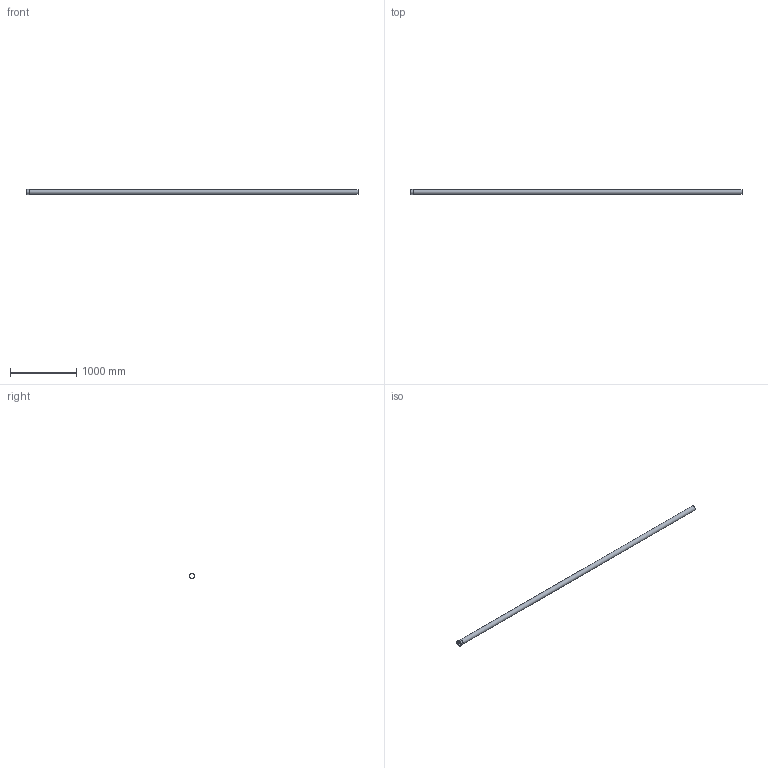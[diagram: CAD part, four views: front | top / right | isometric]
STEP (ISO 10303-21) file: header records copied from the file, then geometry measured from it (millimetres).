
FILE_DESCRIPTION((''),'2;1');
FILE_NAME('I:\WATTS\3D_CAD\3D_CAD_Models\Blucher_Drains\P_StraightPipe\WebsiteFiles\3D\STEP\P3-16.4-316.stp','2009-12-02T14:14:08',('menesek'),(''),'Autodesk Inventor 2010','Autodesk Inventor 2010','');
FILE_SCHEMA(('AUTOMOTIVE_DESIGN { 1 0 10303 214 1 1 1 1 }'));
Length unit declared in the file: inch
Products named in the file (1): P3-16.4-316
Bounding box: 5000 x 87.12 x 87.12 mm (x, y, z)
Volume: 1195349.5 mm3; surface area: 2326107.7 mm2
Topology: 1 solids, 1 shells, 109 faces, 285 edges, 190 vertices
Faces by surface type: plane 59, bspline 34, cylinder 16
Full cylindrical faces by diameter (mm): 72.898 x1, 74.93 x1, 75.946 x2, 87.122 x1
Entity records: 13765 total; most frequent: CARTESIAN_POINT 11387, ORIENTED_EDGE 548, DIRECTION 356, EDGE_CURVE 274, VERTEX_POINT 186, EDGE_LOOP 128, AXIS2_PLACEMENT_3D 120, VECTOR 116
